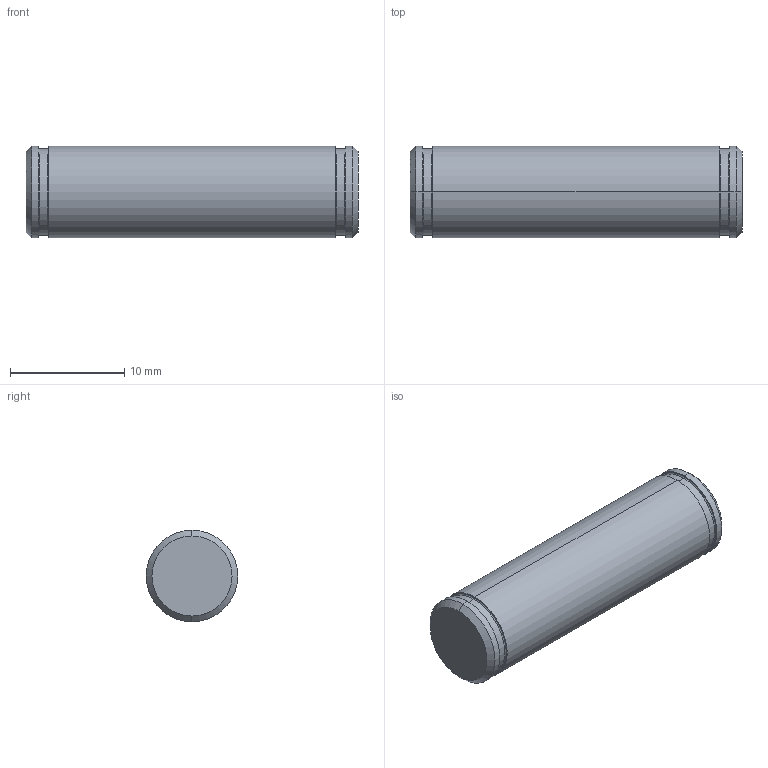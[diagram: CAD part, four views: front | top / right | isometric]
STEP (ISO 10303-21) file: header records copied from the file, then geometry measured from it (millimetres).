
FILE_DESCRIPTION (( 'STEP AP203' ), '1' );
FILE_NAME ('T090045.STEP', '2017-03-22T13:01:54', ( 'Localadmin' ), ( 'Microsoft' ), 'SwSTEP 2.0', 'SolidWorks 2016', '' );
FILE_SCHEMA (( 'CONFIG_CONTROL_DESIGN' ));
Length unit declared in the file: millimetre
Products named in the file (1): T090045
Bounding box: 29 x 8 x 8 mm (x, y, z)
Volume: 1443 mm3; surface area: 827.7 mm2
Topology: 1 solids, 1 shells, 28 faces, 54 edges, 32 vertices
Faces by surface type: cylinder 10, torus 8, plane 6, cone 4
Entity records: 799 total; most frequent: DIRECTION 152, CARTESIAN_POINT 115, ORIENTED_EDGE 108, AXIS2_PLACEMENT_3D 69, EDGE_CURVE 54, CIRCLE 40, EDGE_LOOP 32, VERTEX_POINT 32
